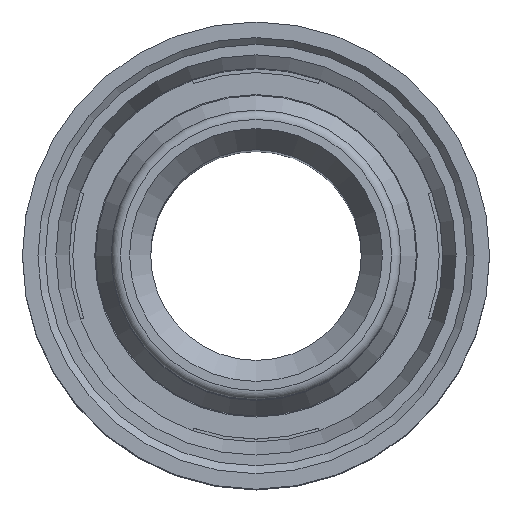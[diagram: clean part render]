
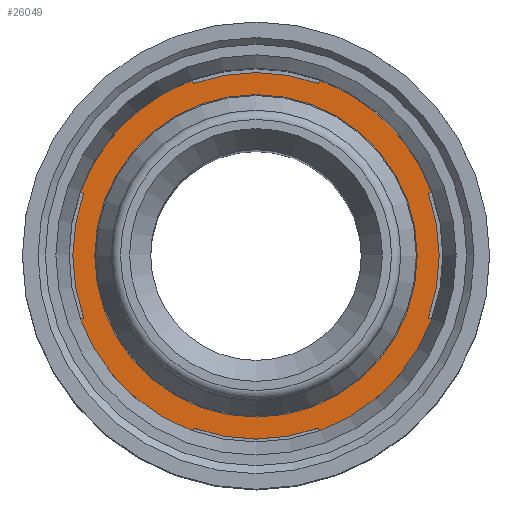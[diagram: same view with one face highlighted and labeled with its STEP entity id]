
A CAD part, top view. The second image highlights one B-rep face of the part: STEP entity #26049.
In plain terms, the highlighted planar face has unit normal (0, 0, 1).
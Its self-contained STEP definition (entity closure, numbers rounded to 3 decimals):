
#184=FACE_BOUND('',#6912,.T.);
#428=PLANE('',#27452);
#1500=LINE('',#52229,#2992);
#1506=LINE('',#52242,#2998);
#1512=LINE('',#52258,#3004);
#1519=LINE('',#52276,#3011);
#1522=LINE('',#52283,#3014);
#1532=LINE('',#52306,#3024);
#1536=LINE('',#52316,#3028);
#1543=LINE('',#52334,#3035);
#2992=VECTOR('',#30275,10.);
#2998=VECTOR('',#30283,10.);
#3004=VECTOR('',#30297,10.);
#3011=VECTOR('',#30312,10.);
#3014=VECTOR('',#30317,10.);
#3024=VECTOR('',#30335,10.);
#3028=VECTOR('',#30341,10.);
#3035=VECTOR('',#30356,10.);
#5399=FACE_OUTER_BOUND('',#6911,.T.);
#6911=EDGE_LOOP('',(#21994,#21995,#21996,#21997,#21998,#21999,#22000,#22001,
#22002,#22003,#22004,#22005,#22006,#22007,#22008,#22009));
#6912=EDGE_LOOP('',(#22010,#22011));
#7825=CIRCLE('',#27378,10.);
#7827=CIRCLE('',#27382,10.);
#7829=CIRCLE('',#27387,10.);
#7831=CIRCLE('',#27392,10.);
#7842=CIRCLE('',#27409,10.2);
#7847=CIRCLE('',#27414,10.2);
#7849=CIRCLE('',#27416,10.2);
#7851=CIRCLE('',#27418,10.2);
#7872=CIRCLE('',#27450,8.8);
#7873=CIRCLE('',#27451,8.8);
#11650=VERTEX_POINT('',#52226);
#11651=VERTEX_POINT('',#52228);
#11656=VERTEX_POINT('',#52239);
#11657=VERTEX_POINT('',#52241);
#11662=VERTEX_POINT('',#52255);
#11663=VERTEX_POINT('',#52257);
#11665=VERTEX_POINT('',#52263);
#11670=VERTEX_POINT('',#52274);
#11672=VERTEX_POINT('',#52280);
#11673=VERTEX_POINT('',#52282);
#11677=VERTEX_POINT('',#52292);
#11679=VERTEX_POINT('',#52298);
#11686=VERTEX_POINT('',#52313);
#11687=VERTEX_POINT('',#52315);
#11689=VERTEX_POINT('',#52321);
#11694=VERTEX_POINT('',#52332);
#11718=VERTEX_POINT('',#52421);
#11719=VERTEX_POINT('',#52423);
#15183=EDGE_CURVE('',#11650,#11651,#1500,.T.);
#15189=EDGE_CURVE('',#11656,#11657,#1506,.T.);
#15192=EDGE_CURVE('',#11651,#11656,#7825,.T.);
#15197=EDGE_CURVE('',#11662,#11663,#1512,.T.);
#15200=EDGE_CURVE('',#11665,#11662,#7827,.T.);
#15206=EDGE_CURVE('',#11670,#11665,#1519,.T.);
#15209=EDGE_CURVE('',#11672,#11673,#1522,.T.);
#15214=EDGE_CURVE('',#11673,#11677,#7829,.T.);
#15221=EDGE_CURVE('',#11677,#11679,#1532,.T.);
#15225=EDGE_CURVE('',#11686,#11687,#1536,.T.);
#15228=EDGE_CURVE('',#11689,#11686,#7831,.T.);
#15234=EDGE_CURVE('',#11694,#11689,#1543,.T.);
#15245=EDGE_CURVE('',#11672,#11657,#7842,.T.);
#15251=EDGE_CURVE('',#11694,#11679,#7847,.T.);
#15253=EDGE_CURVE('',#11670,#11687,#7849,.T.);
#15255=EDGE_CURVE('',#11650,#11663,#7851,.T.);
#15283=EDGE_CURVE('',#11718,#11719,#7872,.T.);
#15284=EDGE_CURVE('',#11719,#11718,#7873,.T.);
#21994=ORIENTED_EDGE('',*,*,#15189,.F.);
#21995=ORIENTED_EDGE('',*,*,#15192,.F.);
#21996=ORIENTED_EDGE('',*,*,#15183,.F.);
#21997=ORIENTED_EDGE('',*,*,#15255,.T.);
#21998=ORIENTED_EDGE('',*,*,#15197,.F.);
#21999=ORIENTED_EDGE('',*,*,#15200,.F.);
#22000=ORIENTED_EDGE('',*,*,#15206,.F.);
#22001=ORIENTED_EDGE('',*,*,#15253,.T.);
#22002=ORIENTED_EDGE('',*,*,#15225,.F.);
#22003=ORIENTED_EDGE('',*,*,#15228,.F.);
#22004=ORIENTED_EDGE('',*,*,#15234,.F.);
#22005=ORIENTED_EDGE('',*,*,#15251,.T.);
#22006=ORIENTED_EDGE('',*,*,#15221,.F.);
#22007=ORIENTED_EDGE('',*,*,#15214,.F.);
#22008=ORIENTED_EDGE('',*,*,#15209,.F.);
#22009=ORIENTED_EDGE('',*,*,#15245,.T.);
#22010=ORIENTED_EDGE('',*,*,#15284,.F.);
#22011=ORIENTED_EDGE('',*,*,#15283,.F.);
#26049=ADVANCED_FACE('',(#5399,#184),#428,.F.);
#27378=AXIS2_PLACEMENT_3D('',#52247,#30288,#30289);
#27382=AXIS2_PLACEMENT_3D('',#52264,#30302,#30303);
#27387=AXIS2_PLACEMENT_3D('',#52293,#30324,#30325);
#27392=AXIS2_PLACEMENT_3D('',#52322,#30346,#30347);
#27409=AXIS2_PLACEMENT_3D('',#52352,#30386,#30387);
#27414=AXIS2_PLACEMENT_3D('',#52361,#30397,#30398);
#27416=AXIS2_PLACEMENT_3D('',#52363,#30401,#30402);
#27418=AXIS2_PLACEMENT_3D('',#52365,#30405,#30406);
#27450=AXIS2_PLACEMENT_3D('',#52424,#30476,#30477);
#27451=AXIS2_PLACEMENT_3D('',#52425,#30478,#30479);
#27452=AXIS2_PLACEMENT_3D('',#52426,#30480,#30481);
#30275=DIRECTION('',(0.94,0.342,0.));
#30283=DIRECTION('',(-0.94,0.342,0.));
#30288=DIRECTION('center_axis',(0.,0.,-1.));
#30289=DIRECTION('ref_axis',(0.94,-0.34,0.));
#30297=DIRECTION('',(-0.342,-0.94,0.));
#30302=DIRECTION('center_axis',(0.,0.,-1.));
#30303=DIRECTION('ref_axis',(0.34,0.94,0.));
#30312=DIRECTION('',(-0.342,0.94,0.));
#30317=DIRECTION('',(0.342,-0.94,0.));
#30324=DIRECTION('center_axis',(0.,0.,-1.));
#30325=DIRECTION('ref_axis',(-0.34,-0.94,0.));
#30335=DIRECTION('',(0.342,0.94,0.));
#30341=DIRECTION('',(0.94,-0.342,0.));
#30346=DIRECTION('center_axis',(0.,0.,-1.));
#30347=DIRECTION('ref_axis',(-0.94,0.34,0.));
#30356=DIRECTION('',(-0.94,-0.342,0.));
#30386=DIRECTION('center_axis',(0.,0.,1.));
#30387=DIRECTION('ref_axis',(1.,0.,0.));
#30397=DIRECTION('center_axis',(0.,0.,1.));
#30398=DIRECTION('ref_axis',(1.,0.,0.));
#30401=DIRECTION('center_axis',(0.,0.,1.));
#30402=DIRECTION('ref_axis',(1.,0.,0.));
#30405=DIRECTION('center_axis',(0.,0.,1.));
#30406=DIRECTION('ref_axis',(1.,0.,0.));
#30476=DIRECTION('center_axis',(0.,0.,1.));
#30477=DIRECTION('ref_axis',(1.,0.,0.));
#30478=DIRECTION('center_axis',(0.,0.,1.));
#30479=DIRECTION('ref_axis',(1.,0.,0.));
#30480=DIRECTION('center_axis',(0.,0.,-1.));
#30481=DIRECTION('ref_axis',(-1.,0.,0.));
#52226=CARTESIAN_POINT('',(-9.592,-3.468,-7.));
#52228=CARTESIAN_POINT('',(-9.404,-3.4,-7.));
#52229=CARTESIAN_POINT('',(-6.345,-2.286,-7.));
#52239=CARTESIAN_POINT('',(-9.404,3.4,-7.));
#52241=CARTESIAN_POINT('',(-9.592,3.468,-7.));
#52242=CARTESIAN_POINT('',(-5.051,1.816,-7.));
#52247=CARTESIAN_POINT('Origin',(0.,0.,-7.));
#52255=CARTESIAN_POINT('',(-3.4,-9.404,-7.));
#52257=CARTESIAN_POINT('',(-3.468,-9.592,-7.));
#52258=CARTESIAN_POINT('',(-4.051,-11.194,-7.));
#52263=CARTESIAN_POINT('',(3.4,-9.404,-7.));
#52264=CARTESIAN_POINT('Origin',(0.,0.,-7.));
#52274=CARTESIAN_POINT('',(3.468,-9.592,-7.));
#52276=CARTESIAN_POINT('',(3.329,-9.209,-7.));
#52280=CARTESIAN_POINT('',(-3.468,9.592,-7.));
#52282=CARTESIAN_POINT('',(-3.4,9.404,-7.));
#52283=CARTESIAN_POINT('',(-0.051,0.202,-7.));
#52292=CARTESIAN_POINT('',(3.4,9.404,-7.));
#52293=CARTESIAN_POINT('Origin',(0.,0.,-7.));
#52298=CARTESIAN_POINT('',(3.468,9.592,-7.));
#52306=CARTESIAN_POINT('',(0.773,2.187,-7.));
#52313=CARTESIAN_POINT('',(9.404,-3.4,-7.));
#52315=CARTESIAN_POINT('',(9.592,-3.468,-7.));
#52316=CARTESIAN_POINT('',(8.33,-3.009,-7.));
#52321=CARTESIAN_POINT('',(9.404,3.4,-7.));
#52322=CARTESIAN_POINT('Origin',(0.,0.,-7.));
#52332=CARTESIAN_POINT('',(9.592,3.468,-7.));
#52334=CARTESIAN_POINT('',(3.067,1.093,-7.));
#52352=CARTESIAN_POINT('Origin',(0.,0.,-7.));
#52361=CARTESIAN_POINT('Origin',(0.,0.,-7.));
#52363=CARTESIAN_POINT('Origin',(0.,0.,-7.));
#52365=CARTESIAN_POINT('Origin',(0.,0.,-7.));
#52421=CARTESIAN_POINT('',(0.,8.8,-7.));
#52423=CARTESIAN_POINT('',(0.,-8.8,-7.));
#52424=CARTESIAN_POINT('Origin',(0.,0.,-7.));
#52425=CARTESIAN_POINT('Origin',(0.,0.,-7.));
#52426=CARTESIAN_POINT('Origin',(0.,-10.2,-7.));
